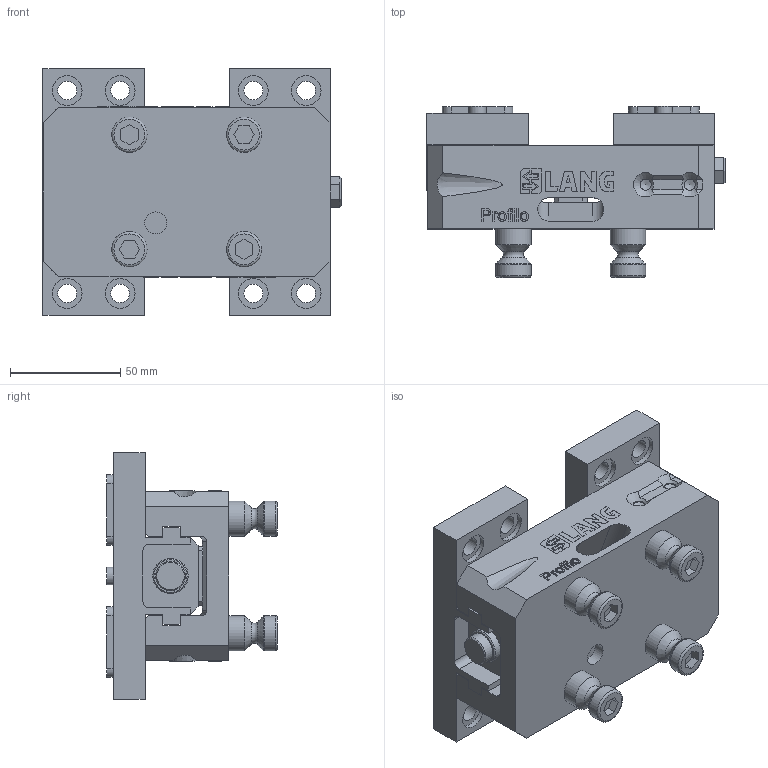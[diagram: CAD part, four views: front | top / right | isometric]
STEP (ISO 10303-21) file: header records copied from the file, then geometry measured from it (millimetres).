
FILE_DESCRIPTION (( 'STEP AP214' ), '1' );
FILE_NAME ('49040-77.STEP', '2020-03-13T14:09:30', ( '' ), ( '' ), 'SwSTEP 2.0', 'SolidWorks 2019', '' );
FILE_SCHEMA (( 'AUTOMOTIVE_DESIGN' ));
Length unit declared in the file: millimetre
Products named in the file (3): Profilo_49040-77; 49077; 49040-77
Assembly tree (3 placements, depth 2):
  49040-77
    Profilo_49040-77
    49077  x2
Bounding box: 135.2 x 77.5 x 112 mm (x, y, z)
Volume: 462975 mm3; surface area: 112478.8 mm2
Topology: 56 solids, 56 shells, 1002 faces, 2522 edges, 1659 vertices
Faces by surface type: plane 739, bspline 136, cylinder 86, cone 29, torus 12
Full cylindrical faces by diameter (mm): 5 x4, 6.8 x4, 8.5 x8, 10 x1, 12 x8, 13.5 x9, 16 x12
Entity records: 41597 total; most frequent: CARTESIAN_POINT 9578, ORIENTED_EDGE 4514, DIRECTION 3686, EDGE_CURVE 2257, LINE 1796, VECTOR 1796, VERTEX_POINT 1529, EDGE_LOOP 1064
